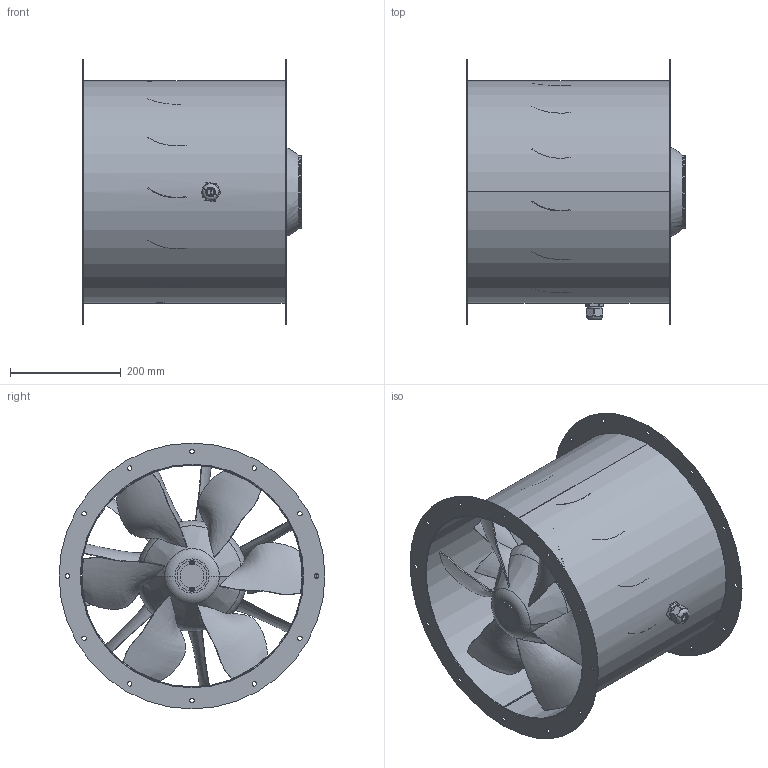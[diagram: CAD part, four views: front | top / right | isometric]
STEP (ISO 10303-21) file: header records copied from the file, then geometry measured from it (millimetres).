
FILE_DESCRIPTION (( 'STEP AP203' ), '1' );
FILE_NAME ('154096-00_AL400D201_step.step', '2020-05-29T08:26:35', ( '' ), ( '' ), 'SwSTEP 2.0', 'SolidWorks 2017', '' );
FILE_SCHEMA (( 'CONFIG_CONTROL_DESIGN' ));
Length unit declared in the file: millimetre
Products named in the file (1): 154096-00_AL400D201_step
Bounding box: 395 x 480 x 480 mm (x, y, z)
Surface area: 1807021.7 mm2 (no closed solid volume)
Topology: 0 solids, 50 shells, 1038 faces, 3857 edges, 2820 vertices
Faces by surface type: plane 779, cylinder 163, bspline 50, torus 28, cone 18
Entity records: 865173 total; most frequent: CARTESIAN_POINT 834365, ORIENTED_EDGE 5936, DIRECTION 5687, EDGE_CURVE 3855, VERTEX_POINT 2820, VECTOR 2757, LINE 2757, AXIS2_PLACEMENT_3D 1465
